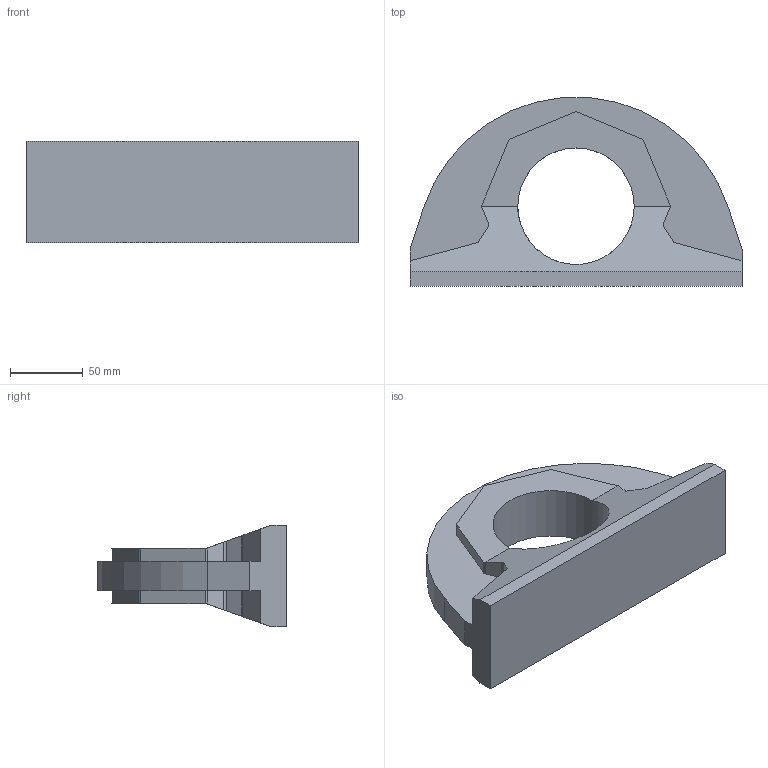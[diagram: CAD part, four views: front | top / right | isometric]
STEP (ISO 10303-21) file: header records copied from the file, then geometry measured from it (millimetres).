
FILE_DESCRIPTION(/* description */ ('STEP AP214'),/* implementation_level */ '2;1');
FILE_NAME(/* name */ 'Lifting point GN 589-228',/* time_stamp */ '2023-10-25T14:17:28+02:00',/* author */ ('License CC BY-ND 4.0'),/* organization */ ('CADENAS'),/* preprocessor_version */ 'ST-DEVELOPER v19.3',/* originating_system */ 'PARTsolutions',/* authorisation */ ' ');
FILE_SCHEMA (('AUTOMOTIVE_DESIGN {1 0 10303 214 3 1 1}'));
Length unit declared in the file: millimetre
Products named in the file (1): Lifting point GN 589-228
Bounding box: 228 x 129.61 x 70 mm (x, y, z)
Volume: 731374.3 mm3; surface area: 84110.4 mm2
Topology: 1 solids, 1 shells, 53 faces, 157 edges, 104 vertices
Faces by surface type: plane 33, cylinder 20
Full cylindrical faces by diameter (mm): 80 x1
Entity records: 1810 total; most frequent: CARTESIAN_POINT 314, ORIENTED_EDGE 312, DIRECTION 310, EDGE_CURVE 156, LINE 110, VECTOR 110, VERTEX_POINT 104, AXIS2_PLACEMENT_3D 100
